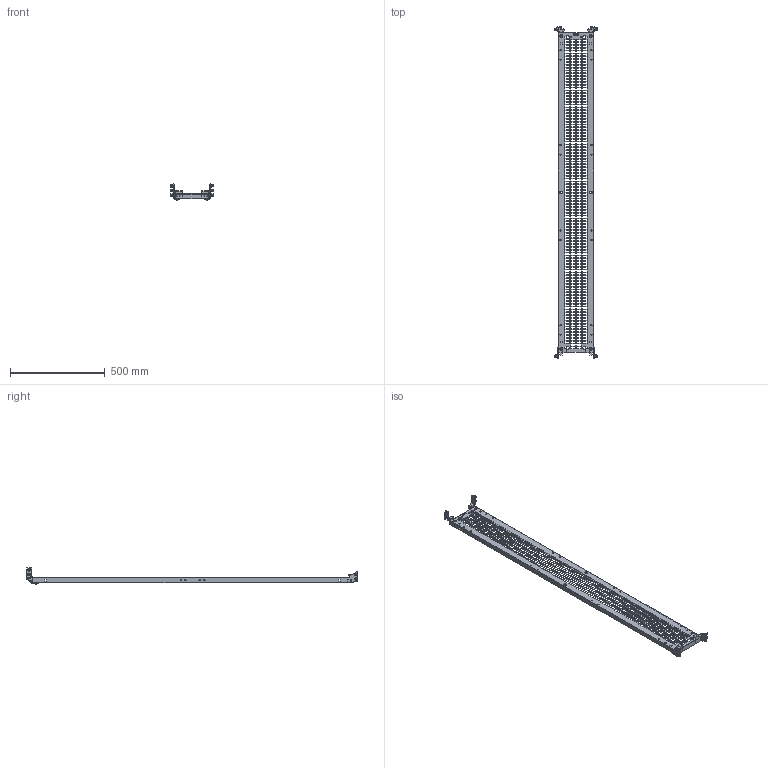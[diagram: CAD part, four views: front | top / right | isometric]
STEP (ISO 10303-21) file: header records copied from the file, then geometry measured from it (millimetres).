
FILE_DESCRIPTION (( 'STEP AP203' ), '1' );
FILE_NAME ('R5NPCEP1830.STEP', '2025-03-26T10:22:31', ( '' ), ( '' ), 'SwSTEP 2.0', 'SolidWorks 2022', '' );
FILE_SCHEMA (( 'CONFIG_CONTROL_DESIGN' ));
Length unit declared in the file: millimetre
Products named in the file (20): RB.1499.00.03.0; R5NPCEP1830; М6 D87181 Zinc_In a tightened position (1.5 mm); RB.2684.00.01.0; RB.2684.00.00.0 СБ_-01; RB.2684.00.00.0 СБ; RB.2628.00.00.0_-18; RB.2684.00.01.0_-01; RB.2814.00.00.0 СБ; RB.2684.00.03.0; RB.2709.00.00.0; AC00C237; RB.2814.00.01.0; M6 MGR-MKO-0625_1,5mm (thread); 003-006-19 GOST 9833-73; M6x16 DIN 912 HX cl.4,8 Zinc_thread; M6x16 DIN 7985 Torx cl.8,8 Zinc_stright; RB.2814.00.00.0 СБ_-01; RB.2697.00.00.0; RB.2814.00.01.0_-01
Assembly tree (43 placements, depth 3):
  R5NPCEP1830
    RB.2628.00.00.0_-18
    RB.2814.00.00.0 СБ_-01
      RB.2814.00.01.0_-01
      M6 MGR-MKO-0625_1,5mm (thread)
    RB.2814.00.00.0 СБ
      RB.2814.00.01.0
      M6 MGR-MKO-0625_1,5mm (thread)
    M6x16 DIN 912 HX cl.4,8 Zinc_thread  x2
    AC00C237  x2
    RB.2684.00.00.0 СБ_-01
      RB.2684.00.01.0_-01
      RB.2684.00.03.0
      RB.1499.00.03.0
      RB.2697.00.00.0
      003-006-19 GOST 9833-73  x2
    RB.2684.00.00.0 СБ
      RB.2684.00.01.0
      RB.2684.00.03.0
      RB.1499.00.03.0
      003-006-19 GOST 9833-73  x2
      RB.2697.00.00.0
    M6x16 DIN 7985 Torx cl.8,8 Zinc_stright  x8
    М6 D87181 Zinc_In a tightened position (1.5 mm)  x8
    RB.2709.00.00.0  x2
Bounding box: 228.3 x 1750.46 x 84.5 mm (x, y, z)
Volume: 937933.4 mm3; surface area: 848062.7 mm2
Topology: 39 solids, 39 shells, 4001 faces, 11247 edges, 7255 vertices
Faces by surface type: plane 2862, cylinder 512, bspline 301, cone 186, torus 132, sphere 8
Full cylindrical faces by diameter (mm): 0.6 x12, 2.3 x4, 2.5 x4, 3.8 x6, 4 x2, 4.2 x4, 4.92 x14, 5 x16, 6 x58, 6.5 x8, 6.7 x2, 7 x12, 7.5 x2, 8 x4, 8.3 x8, 9 x6, 10 x4, 12 x26, 15 x6
Entity records: 90195 total; most frequent: CARTESIAN_POINT 18949, ORIENTED_EDGE 14380, DIRECTION 12551, EDGE_CURVE 7190, LINE 6565, VECTOR 6565, VERTEX_POINT 4860, EDGE_LOOP 3818
